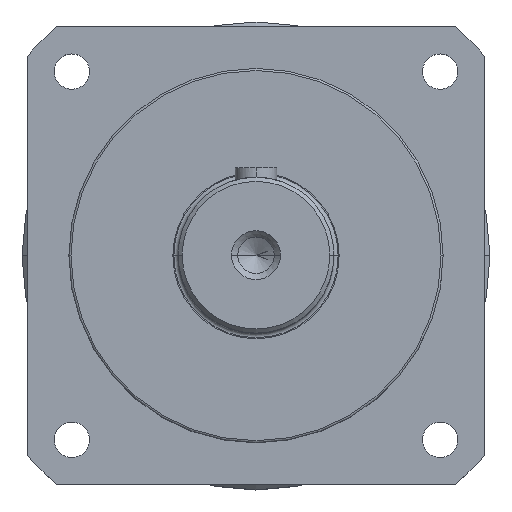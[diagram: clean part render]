
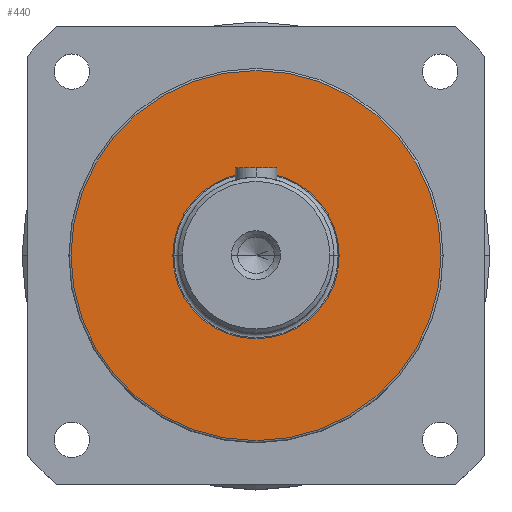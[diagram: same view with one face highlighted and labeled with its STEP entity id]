
A CAD part, top view. The second image highlights one B-rep face of the part: STEP entity #440.
In plain terms, the highlighted planar face has unit normal (0, 0, 1).
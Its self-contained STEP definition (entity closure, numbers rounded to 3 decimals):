
#252 = VERTEX_POINT ( 'NONE', #3252 ) ;
#440 = ADVANCED_FACE ( 'NONE', ( #2076, #556 ), #8037, .T. ) ;
#556 = FACE_BOUND ( 'NONE', #2187, .T. ) ;
#1086 = DIRECTION ( 'NONE',  ( 0., 0., 1. ) ) ;
#1411 = EDGE_CURVE ( 'NONE', #252, #3291, #1843, .T. ) ;
#1782 = AXIS2_PLACEMENT_3D ( 'NONE', #5022, #3043, #3730 ) ;
#1843 = CIRCLE ( 'NONE', #1782, 40. ) ;
#1925 = CIRCLE ( 'NONE', #5630, 89. ) ;
#2061 = DIRECTION ( 'NONE',  ( 0., 0., 1. ) ) ;
#2076 = FACE_OUTER_BOUND ( 'NONE', #8815, .T. ) ;
#2187 = EDGE_LOOP ( 'NONE', ( #8745, #4586 ) ) ;
#2270 = AXIS2_PLACEMENT_3D ( 'NONE', #5481, #2061, #2758 ) ;
#2758 = DIRECTION ( 'NONE',  ( 1., 0., 0. ) ) ;
#2800 = EDGE_CURVE ( 'NONE', #8012, #6869, #1925, .T. ) ;
#3043 = DIRECTION ( 'NONE',  ( 0., 0., 1. ) ) ;
#3225 = CARTESIAN_POINT ( 'NONE',  ( 0., 0., 50. ) ) ;
#3252 = CARTESIAN_POINT ( 'NONE',  ( 40., 0., 50. ) ) ;
#3291 = VERTEX_POINT ( 'NONE', #5787 ) ;
#3389 = CARTESIAN_POINT ( 'NONE',  ( -89., 0., 50. ) ) ;
#3730 = DIRECTION ( 'NONE',  ( 1., 0., 0. ) ) ;
#3911 = DIRECTION ( 'NONE',  ( 1., 0., 0. ) ) ;
#4268 = EDGE_CURVE ( 'NONE', #6869, #8012, #4310, .T. ) ;
#4310 = CIRCLE ( 'NONE', #5279, 89. ) ;
#4509 = CIRCLE ( 'NONE', #2270, 40. ) ;
#4586 = ORIENTED_EDGE ( 'NONE', *, *, #1411, .F. ) ;
#4684 = CARTESIAN_POINT ( 'NONE',  ( 0., 0., 50. ) ) ;
#5022 = CARTESIAN_POINT ( 'NONE',  ( 0., 0., 50. ) ) ;
#5155 = EDGE_CURVE ( 'NONE', #3291, #252, #4509, .T. ) ;
#5279 = AXIS2_PLACEMENT_3D ( 'NONE', #4684, #7494, #3911 ) ;
#5481 = CARTESIAN_POINT ( 'NONE',  ( 0., 0., 50. ) ) ;
#5630 = AXIS2_PLACEMENT_3D ( 'NONE', #3225, #1086, #5957 ) ;
#5787 = CARTESIAN_POINT ( 'NONE',  ( -40., 0., 50. ) ) ;
#5957 = DIRECTION ( 'NONE',  ( 1., 0., 0. ) ) ;
#6150 = CARTESIAN_POINT ( 'NONE',  ( 89., 0., 50. ) ) ;
#6582 = DIRECTION ( 'NONE',  ( 0., 0., 1. ) ) ;
#6869 = VERTEX_POINT ( 'NONE', #3389 ) ;
#6882 = ORIENTED_EDGE ( 'NONE', *, *, #4268, .T. ) ;
#7381 = DIRECTION ( 'NONE',  ( 1., 0., 0. ) ) ;
#7494 = DIRECTION ( 'NONE',  ( 0., 0., 1. ) ) ;
#8012 = VERTEX_POINT ( 'NONE', #6150 ) ;
#8037 = PLANE ( 'NONE',  #8280 ) ;
#8280 = AXIS2_PLACEMENT_3D ( 'NONE', #8735, #6582, #7381 ) ;
#8735 = CARTESIAN_POINT ( 'NONE',  ( 0., 0., 50. ) ) ;
#8745 = ORIENTED_EDGE ( 'NONE', *, *, #5155, .F. ) ;
#8815 = EDGE_LOOP ( 'NONE', ( #8865, #6882 ) ) ;
#8865 = ORIENTED_EDGE ( 'NONE', *, *, #2800, .T. ) ;
